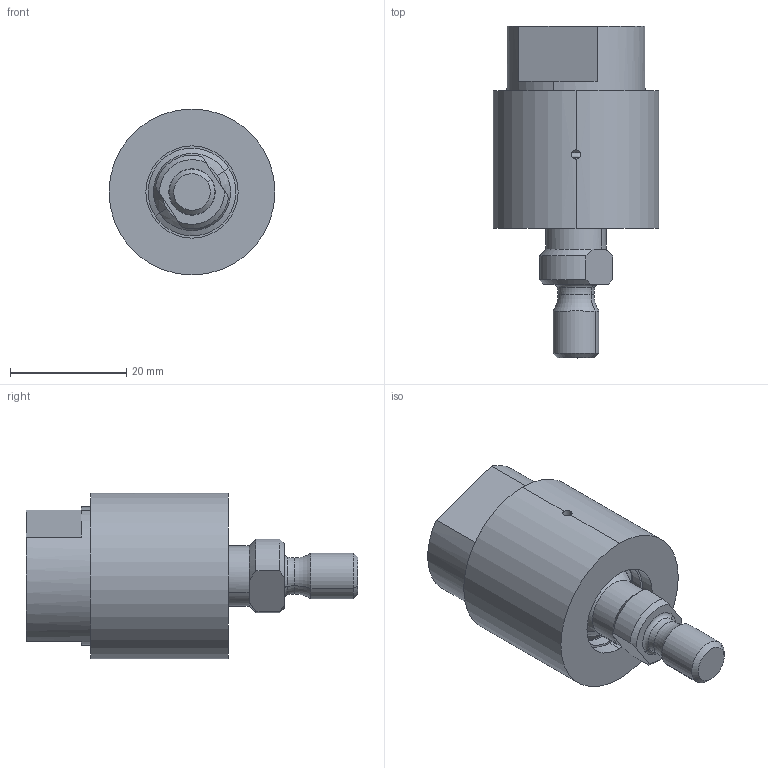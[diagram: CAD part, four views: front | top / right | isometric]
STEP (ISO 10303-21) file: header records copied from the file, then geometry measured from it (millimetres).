
FILE_DESCRIPTION (( 'STEP AP203' ), '1' );
FILE_NAME ('R010-01024.STEP', '2015-02-10T13:40:09', ( '' ), ( '' ), 'SwSTEP 2.0', 'SolidWorks 2014', '' );
FILE_SCHEMA (( 'CONFIG_CONTROL_DESIGN' ));
Length unit declared in the file: inch
Products named in the file (1): R010-01024
Bounding box: 28.57 x 57.15 x 28.57 mm (x, y, z)
Volume: 19134.4 mm3; surface area: 10789.2 mm2
Topology: 5 solids, 5 shells, 83 faces, 191 edges, 115 vertices
Faces by surface type: cylinder 30, plane 19, cone 14, torus 12, sphere 8
Entity records: 2500 total; most frequent: CARTESIAN_POINT 478, DIRECTION 457, ORIENTED_EDGE 378, AXIS2_PLACEMENT_3D 200, EDGE_CURVE 189, CIRCLE 116, VERTEX_POINT 115, EDGE_LOOP 90
